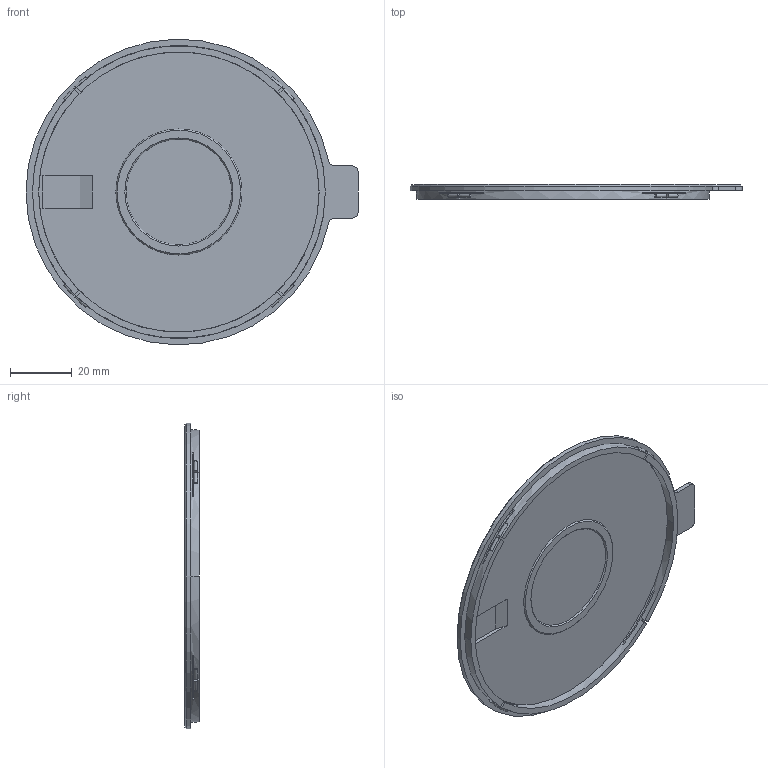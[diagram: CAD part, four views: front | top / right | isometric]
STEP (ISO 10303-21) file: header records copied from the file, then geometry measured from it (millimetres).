
FILE_DESCRIPTION((''),'2;1');
FILE_NAME('0001','2024-10-18T17:32:39',('qinghui.yi'),(''),'CREO PARAMETRIC BY PTC INC, 2019164','CREO PARAMETRIC BY PTC INC, 2019164','');
FILE_SCHEMA(('CONFIG_CONTROL_DESIGN','SHAPE_APPEARANCE_LAYERS_GROUPS'));
Length unit declared in the file: millimetre
Products named in the file (1): 0001
Bounding box: 107.5 x 4.8 x 98.99 mm (x, y, z)
Volume: 17155.4 mm3; surface area: 18260 mm2
Topology: 1 solids, 1 shells, 90 faces, 230 edges, 148 vertices
Faces by surface type: plane 60, cylinder 11, torus 10, cone 9
Entity records: 3214 total; most frequent: CARTESIAN_POINT 596, DIRECTION 500, ORIENTED_EDGE 460, COLOUR_RGB 312, EDGE_CURVE 230, AXIS2_PLACEMENT_3D 188, VERTEX_POINT 148, VECTOR 124
